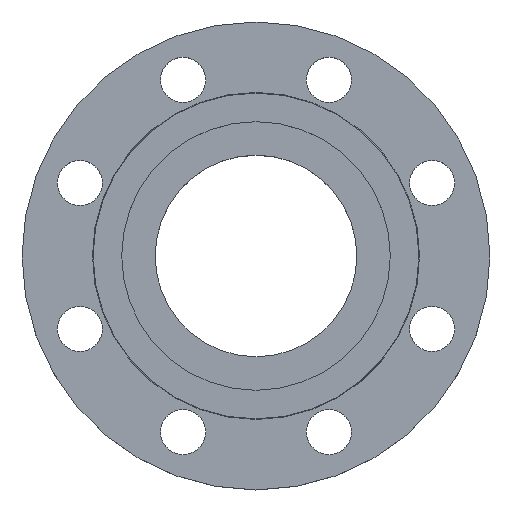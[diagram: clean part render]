
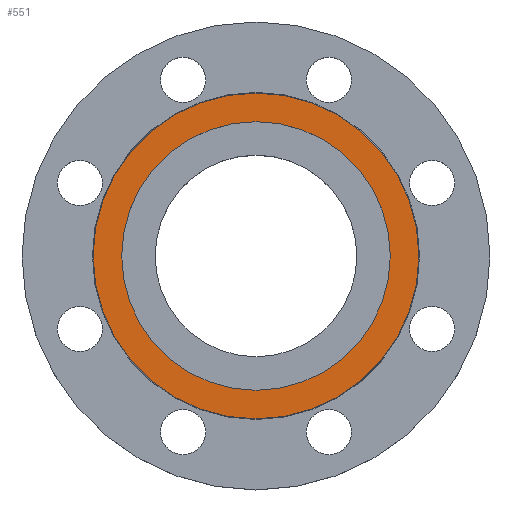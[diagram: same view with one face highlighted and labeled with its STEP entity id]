
A CAD part, top view. The second image highlights one B-rep face of the part: STEP entity #551.
In plain terms, the highlighted planar face has unit normal (0, 0, 1).
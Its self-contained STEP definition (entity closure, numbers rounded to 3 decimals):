
#37 = CARTESIAN_POINT ( 'NONE',  ( -77.5, 0., 0. ) ) ;
#74 = DIRECTION ( 'NONE',  ( -1., 0., 0. ) ) ;
#75 = DIRECTION ( 'NONE',  ( 0., 0., -1. ) ) ;
#116 = CARTESIAN_POINT ( 'NONE',  ( -94., 0., 0. ) ) ;
#139 = CARTESIAN_POINT ( 'NONE',  ( 77.5, 0., 0. ) ) ;
#173 = CARTESIAN_POINT ( 'NONE',  ( 94., 0., 0. ) ) ;
#271 = EDGE_CURVE ( 'NONE', #879, #840, #1089, .T. ) ;
#320 = AXIS2_PLACEMENT_3D ( 'NONE', #349, #341, #339 ) ;
#324 = EDGE_CURVE ( 'NONE', #840, #879, #742, .T. ) ;
#339 = DIRECTION ( 'NONE',  ( -1., 0., 0. ) ) ;
#341 = DIRECTION ( 'NONE',  ( 0., 0., -1. ) ) ;
#349 = CARTESIAN_POINT ( 'NONE',  ( 0., 0., 0. ) ) ;
#458 = DIRECTION ( 'NONE',  ( 1., 0., 0. ) ) ;
#459 = DIRECTION ( 'NONE',  ( 0., 0., 1. ) ) ;
#460 = CARTESIAN_POINT ( 'NONE',  ( 0., 0., 0. ) ) ;
#461 = PLANE ( 'NONE',  #809 ) ;
#462 = FACE_BOUND ( 'NONE', #889, .T. ) ;
#463 = FACE_OUTER_BOUND ( 'NONE', #857, .T. ) ;
#473 = AXIS2_PLACEMENT_3D ( 'NONE', #601, #75, #74 ) ;
#551 = ADVANCED_FACE ( 'NONE', ( #463, #462 ), #461, .T. ) ;
#560 = DIRECTION ( 'NONE',  ( -1., 0., 0. ) ) ;
#562 = DIRECTION ( 'NONE',  ( 0., 0., -1. ) ) ;
#563 = CARTESIAN_POINT ( 'NONE',  ( 0., 0., 0. ) ) ;
#601 = CARTESIAN_POINT ( 'NONE',  ( 0., 0., 0. ) ) ;
#619 = CIRCLE ( 'NONE', #473, 77.5 ) ;
#663 = CARTESIAN_POINT ( 'NONE',  ( 0., 0., 0. ) ) ;
#690 = AXIS2_PLACEMENT_3D ( 'NONE', #663, #779, #738 ) ;
#714 = EDGE_CURVE ( 'NONE', #1084, #863, #1000, .T. ) ;
#738 = DIRECTION ( 'NONE',  ( -1., 0., 0. ) ) ;
#742 = CIRCLE ( 'NONE', #938, 94. ) ;
#779 = DIRECTION ( 'NONE',  ( 0., 0., -1. ) ) ;
#809 = AXIS2_PLACEMENT_3D ( 'NONE', #460, #459, #458 ) ;
#828 = ORIENTED_EDGE ( 'NONE', *, *, #984, .T. ) ;
#840 = VERTEX_POINT ( 'NONE', #173 ) ;
#857 = EDGE_LOOP ( 'NONE', ( #1024, #1025 ) ) ;
#863 = VERTEX_POINT ( 'NONE', #139 ) ;
#879 = VERTEX_POINT ( 'NONE', #116 ) ;
#889 = EDGE_LOOP ( 'NONE', ( #897, #828 ) ) ;
#897 = ORIENTED_EDGE ( 'NONE', *, *, #714, .T. ) ;
#938 = AXIS2_PLACEMENT_3D ( 'NONE', #563, #562, #560 ) ;
#984 = EDGE_CURVE ( 'NONE', #863, #1084, #619, .T. ) ;
#1000 = CIRCLE ( 'NONE', #320, 77.5 ) ;
#1024 = ORIENTED_EDGE ( 'NONE', *, *, #271, .F. ) ;
#1025 = ORIENTED_EDGE ( 'NONE', *, *, #324, .F. ) ;
#1084 = VERTEX_POINT ( 'NONE', #37 ) ;
#1089 = CIRCLE ( 'NONE', #690, 94. ) ;
